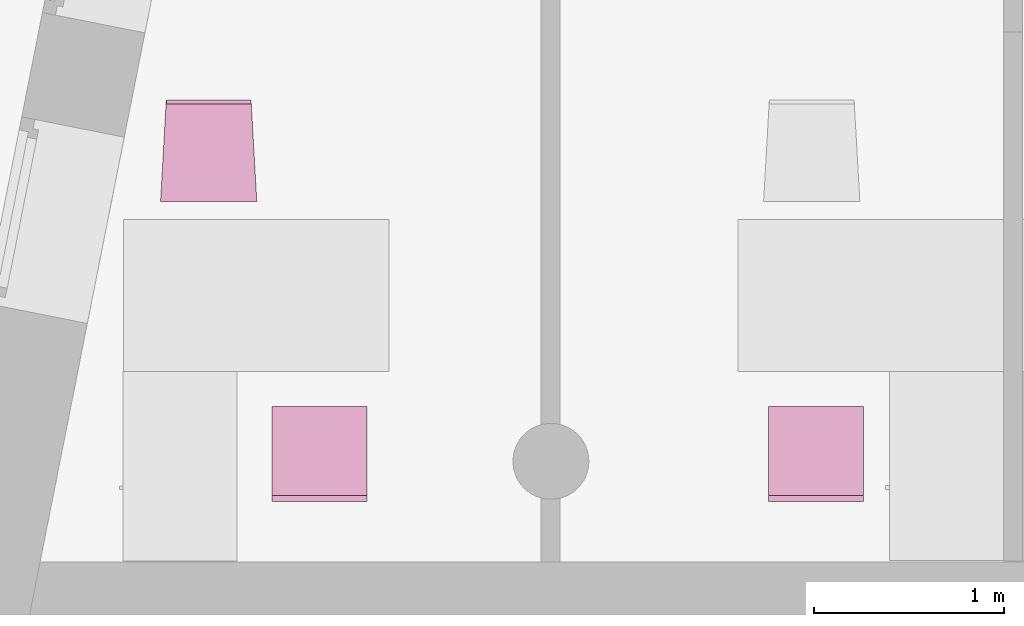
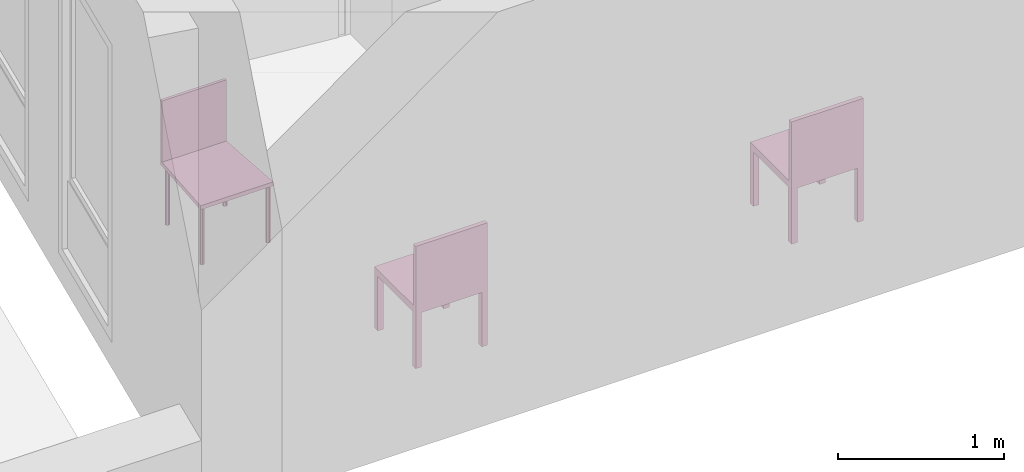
"""IFC4 building model written with IfcOpenShell, lengths in metres."""

from ifc_helpers import new_model, entity, si_unit, converted_unit, derived_unit, frame, origin, place, context, subcontext, project, spatial, faceted_brep, element, save


model = new_model("IFC4")

# Units and contexts
model_context = context("Model", 3, precision=1e-05, world=origin())
body_context = subcontext(model_context, "Body", "Model", "MODEL_VIEW")
ifc_project = project(units=[si_unit("LENGTHUNIT", "METRE"), si_unit("AREAUNIT", "SQUARE_METRE"), si_unit("VOLUMEUNIT", "CUBIC_METRE"), si_unit("MASSUNIT", "GRAM", prefix="KILO"), converted_unit("PLANEANGLEUNIT", "DEGREE", entity("IfcPlaneAngleMeasure", 0.0174532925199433), si_unit("PLANEANGLEUNIT", "RADIAN"), dimensions=[0, 0, 0, 0, 0, 0, 0]), derived_unit("THERMALTRANSMITTANCEUNIT", [(si_unit("POWERUNIT", "WATT"), 1), (si_unit("THERMODYNAMICTEMPERATUREUNIT", "KELVIN"), -1), (si_unit("LENGTHUNIT", "METRE"), -2)]), derived_unit("VOLUMETRICFLOWRATEUNIT", [(si_unit("LENGTHUNIT", "METRE"), 3), (converted_unit("TIMEUNIT", "hour", entity("IfcTimeMeasure", 3600.0), si_unit("TIMEUNIT", "SECOND"), dimensions=[0, 0, 1, 0, 0, 0, 0]), -1), (si_unit("LENGTHUNIT", "METRE"), -1)])], contexts=[model_context])

# Building, storeys
building_placement = place(None, origin())
building = spatial("IfcBuilding", under=ifc_project, at=building_placement, Name="HABITATGE PLURIFAMILIAR", CompositionType="ELEMENT")
storey_1_placement = place(building_placement, frame((0.0, 0.0, 6.25)))
storey_1 = spatial("IfcBuildingStorey", under=building, at=storey_1_placement, Name="PLANTA PRIMERA", CompositionType="ELEMENT", Elevation=6.25)
storey_2_placement = place(storey_1_placement, frame((0.0, 0.0, 3.35)))
storey_2 = spatial("IfcBuildingStorey", under=storey_1, at=storey_2_placement, Name="NOU", CompositionType="PARTIAL")

# Furniture
furniture_1_placement = place(storey_2_placement, frame((399.51810235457, 13.4392327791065, -3.34942958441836)))
element("IfcFurniture", 1, at=furniture_1_placement, inside=storey_2, Name="Cadira d'Oficina_P1", context=body_context, shape_type="Brep", body=[
    faceted_brep([(0.0, 0.5, 0.4), (0.0, 0.0, 0.4), (0.5, 0.0, 0.4), (0.5, 0.5, 0.4), (0.0, 0.0, 0.45), (0.0, 0.5, 0.45), (0.5, 0.5, 0.45), (0.5, 0.0, 0.45)], [[[0, 1, 2, 3]], [[4, 5, 6, 7]], [[1, 0, 5, 4]], [[2, 1, 4, 7]], [[3, 2, 7, 6]], [[0, 3, 6, 5]]], orient=[[False], [False], [False], [False], [False], [False]]),
    faceted_brep([(0.5, 0.04, 0.0), (0.46, 0.04, 0.0), (0.46, 0.0, 0.0), (0.5, 0.0, 0.0), (0.46, 0.04, 0.4), (0.5, 0.04, 0.4), (0.5, 0.0, 0.4), (0.46, 0.0, 0.4)], [[[0, 1, 2, 3]], [[4, 5, 6, 7]], [[1, 0, 5, 4]], [[2, 1, 4, 7]], [[3, 2, 7, 6]], [[0, 3, 6, 5]]], orient=[[False], [False], [False], [False], [False], [False]]),
    faceted_brep([(0.5, 0.5, 0.0), (0.46, 0.5, 0.0), (0.46, 0.46, 0.0), (0.5, 0.46, 0.0), (0.46, 0.5, 0.4), (0.5, 0.5, 0.4), (0.5, 0.46, 0.4), (0.46, 0.46, 0.4)], [[[0, 1, 2, 3]], [[4, 5, 6, 7]], [[1, 0, 5, 4]], [[2, 1, 4, 7]], [[3, 2, 7, 6]], [[0, 3, 6, 5]]], orient=[[False], [False], [False], [False], [False], [False]]),
    faceted_brep([(0.04, 0.04, 0.0), (0.0, 0.04, 0.0), (0.0, 0.0, 0.0), (0.04, 0.0, 0.0), (0.0, 0.04, 0.4), (0.04, 0.04, 0.4), (0.04, 0.0, 0.4), (0.0, 0.0, 0.4)], [[[0, 1, 2, 3]], [[4, 5, 6, 7]], [[1, 0, 5, 4]], [[2, 1, 4, 7]], [[3, 2, 7, 6]], [[0, 3, 6, 5]]], orient=[[False], [False], [False], [False], [False], [False]]),
    faceted_brep([(0.04, 0.5, 0.0), (0.0, 0.5, 0.0), (0.0, 0.46, 0.0), (0.04, 0.46, 0.0), (0.0, 0.5, 0.4), (0.04, 0.5, 0.4), (0.04, 0.46, 0.4), (0.0, 0.46, 0.4)], [[[0, 1, 2, 3]], [[4, 5, 6, 7]], [[1, 0, 5, 4]], [[2, 1, 4, 7]], [[3, 2, 7, 6]], [[0, 3, 6, 5]]], orient=[[False], [False], [False], [False], [False], [False]]),
    faceted_brep([(0.5, 0.03, 0.45), (0.0, 0.03, 0.45), (0.0, 0.0, 0.45), (0.5, 0.0, 0.45), (0.0, 0.03, 0.9), (0.5, 0.03, 0.9), (0.5, 0.0, 0.9), (0.0, 0.0, 0.9)], [[[0, 1, 2, 3]], [[4, 5, 6, 7]], [[1, 0, 5, 4]], [[2, 1, 4, 7]], [[3, 2, 7, 6]], [[0, 3, 6, 5]]], orient=[[False], [False], [False], [False], [False], [False]]),
])
furniture_2_placement = place(storey_2_placement, frame((402.132605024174, 13.4392327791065, -3.34942958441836)))
element("IfcFurniture", 2, at=furniture_2_placement, inside=storey_2, Name="Cadira d'Oficina_P1", context=body_context, shape_type="Brep", body=[
    faceted_brep([(0.0, 0.5, 0.4), (0.0, 0.0, 0.4), (0.5, 0.0, 0.4), (0.5, 0.5, 0.4), (0.0, 0.0, 0.45), (0.0, 0.5, 0.45), (0.5, 0.5, 0.45), (0.5, 0.0, 0.45)], [[[0, 1, 2, 3]], [[4, 5, 6, 7]], [[1, 0, 5, 4]], [[2, 1, 4, 7]], [[3, 2, 7, 6]], [[0, 3, 6, 5]]], orient=[[False], [False], [False], [False], [False], [False]]),
    faceted_brep([(0.5, 0.04, 0.0), (0.46, 0.04, 0.0), (0.46, 0.0, 0.0), (0.5, 0.0, 0.0), (0.46, 0.04, 0.4), (0.5, 0.04, 0.4), (0.5, 0.0, 0.4), (0.46, 0.0, 0.4)], [[[0, 1, 2, 3]], [[4, 5, 6, 7]], [[1, 0, 5, 4]], [[2, 1, 4, 7]], [[3, 2, 7, 6]], [[0, 3, 6, 5]]], orient=[[False], [False], [False], [False], [False], [False]]),
    faceted_brep([(0.5, 0.5, 0.0), (0.46, 0.5, 0.0), (0.46, 0.46, 0.0), (0.5, 0.46, 0.0), (0.46, 0.5, 0.4), (0.5, 0.5, 0.4), (0.5, 0.46, 0.4), (0.46, 0.46, 0.4)], [[[0, 1, 2, 3]], [[4, 5, 6, 7]], [[1, 0, 5, 4]], [[2, 1, 4, 7]], [[3, 2, 7, 6]], [[0, 3, 6, 5]]], orient=[[False], [False], [False], [False], [False], [False]]),
    faceted_brep([(0.04, 0.04, 0.0), (0.0, 0.04, 0.0), (0.0, 0.0, 0.0), (0.04, 0.0, 0.0), (0.0, 0.04, 0.4), (0.04, 0.04, 0.4), (0.04, 0.0, 0.4), (0.0, 0.0, 0.4)], [[[0, 1, 2, 3]], [[4, 5, 6, 7]], [[1, 0, 5, 4]], [[2, 1, 4, 7]], [[3, 2, 7, 6]], [[0, 3, 6, 5]]], orient=[[False], [False], [False], [False], [False], [False]]),
    faceted_brep([(0.04, 0.5, 0.0), (0.0, 0.5, 0.0), (0.0, 0.46, 0.0), (0.04, 0.46, 0.0), (0.0, 0.5, 0.4), (0.04, 0.5, 0.4), (0.04, 0.46, 0.4), (0.0, 0.46, 0.4)], [[[0, 1, 2, 3]], [[4, 5, 6, 7]], [[1, 0, 5, 4]], [[2, 1, 4, 7]], [[3, 2, 7, 6]], [[0, 3, 6, 5]]], orient=[[False], [False], [False], [False], [False], [False]]),
    faceted_brep([(0.5, 0.03, 0.45), (0.0, 0.03, 0.45), (0.0, 0.0, 0.45), (0.5, 0.0, 0.45), (0.0, 0.03, 0.9), (0.5, 0.03, 0.9), (0.5, 0.0, 0.9), (0.0, 0.0, 0.9)], [[[0, 1, 2, 3]], [[4, 5, 6, 7]], [[1, 0, 5, 4]], [[2, 1, 4, 7]], [[3, 2, 7, 6]], [[0, 3, 6, 5]]], orient=[[False], [False], [False], [False], [False], [False]]),
])
furniture_3_placement = place(storey_2_placement, frame((398.931582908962, 15.0183853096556, -3.35114412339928)))
element("IfcFurniture", 3, at=furniture_3_placement, inside=storey_2, Name="Cadira confient_P1", context=body_context, shape_type="Brep", body=[
    faceted_brep([(0.00928777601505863, 0.0250324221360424, 0.0), (0.0095259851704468, 0.0224394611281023, 0.0), (0.0102108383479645, 0.0199272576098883, 0.0), (0.011321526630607, 0.0175721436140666, 0.0), (0.0128243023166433, 0.0154456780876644, 0.0), (0.0146735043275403, 0.0136124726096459, 0.0), (0.016812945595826, 0.0121282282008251, 0.0), (0.0191776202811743, 0.0110380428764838, 0.0), (0.0216956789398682, 0.0103750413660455, 0.0), (0.0242906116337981, 0.0101593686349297, 0.0), (0.0268835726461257, 0.0103975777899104, 0.0), (0.0293957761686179, 0.0110824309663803, 0.0), (0.0317508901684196, 0.012193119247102, 0.0), (0.0338773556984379, 0.0136958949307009, 0.0), (0.035710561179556, 0.0155450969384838, 0.0), (0.0371948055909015, 0.0176845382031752, 0.0), (0.0382849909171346, 0.0200492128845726, 0.0), (0.0389479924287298, 0.0225672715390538, 0.0), (0.0391636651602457, 0.0251622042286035, 0.0), (0.0389254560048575, 0.0277551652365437, 0.0), (0.0382406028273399, 0.0302673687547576, 0.0), (0.0371299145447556, 0.0326224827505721, 0.0), (0.0356271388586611, 0.0347489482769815, 0.0), (0.0337779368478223, 0.0365821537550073, 0.0), (0.0316384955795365, 0.0380663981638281, 0.0), (0.02927382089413, 0.0391565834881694, 0.0), (0.0267557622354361, 0.0398195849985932, 0.0), (0.0241608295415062, 0.0400352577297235, 0.0), (0.0215678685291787, 0.0397970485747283, 0.0), (0.0190556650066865, 0.0391121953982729, 0.0), (0.016700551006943, 0.0380015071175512, 0.0), (0.0145740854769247, 0.0364987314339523, 0.0), (0.0127408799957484, 0.0346495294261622, 0.0), (0.011256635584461, 0.0325100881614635, 0.0), (0.0101664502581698, 0.0301454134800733, 0.0), (0.00950344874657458, 0.0276273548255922, 0.0), (0.00928777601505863, 0.0250324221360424, 0.448281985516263), (0.00950344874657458, 0.0276273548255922, 0.448281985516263), (0.0101664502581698, 0.0301454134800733, 0.448281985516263), (0.011256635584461, 0.0325100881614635, 0.448281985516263), (0.0127408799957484, 0.0346495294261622, 0.448281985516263), (0.0145740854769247, 0.0364987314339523, 0.448281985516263), (0.016700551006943, 0.0380015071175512, 0.448281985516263), (0.0190556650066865, 0.0391121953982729, 0.448281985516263), (0.0215678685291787, 0.0397970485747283, 0.448281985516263), (0.0241608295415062, 0.0400352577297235, 0.448281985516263), (0.0267557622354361, 0.0398195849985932, 0.448281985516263), (0.02927382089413, 0.0391565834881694, 0.448281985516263), (0.0316384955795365, 0.0380663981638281, 0.448281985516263), (0.0337779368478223, 0.0365821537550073, 0.448281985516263), (0.0356271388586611, 0.0347489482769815, 0.448281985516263), (0.0371299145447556, 0.0326224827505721, 0.448281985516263), (0.0382406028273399, 0.0302673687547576, 0.448281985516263), (0.0389254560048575, 0.0277551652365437, 0.448281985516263), (0.0391636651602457, 0.0251622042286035, 0.448281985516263), (0.0389479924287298, 0.0225672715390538, 0.448281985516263), (0.0382849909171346, 0.0200492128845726, 0.448281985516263), (0.0371948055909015, 0.0176845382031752, 0.448281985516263), (0.035710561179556, 0.0155450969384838, 0.448281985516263), (0.0338773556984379, 0.0136958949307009, 0.448281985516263), (0.0317508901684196, 0.012193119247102, 0.448281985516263), (0.0293957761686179, 0.0110824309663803, 0.448281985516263), (0.0268835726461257, 0.0103975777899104, 0.448281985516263), (0.0242906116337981, 0.0101593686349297, 0.448281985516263), (0.0216956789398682, 0.0103750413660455, 0.448281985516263), (0.0191776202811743, 0.0110380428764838, 0.448281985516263), (0.016812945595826, 0.0121282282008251, 0.448281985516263), (0.0146735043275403, 0.0136124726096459, 0.448281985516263), (0.0128243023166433, 0.0154456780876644, 0.448281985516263), (0.011321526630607, 0.0175721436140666, 0.448281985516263), (0.0102108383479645, 0.0199272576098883, 0.448281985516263), (0.0095259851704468, 0.0224394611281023, 0.448281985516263)], [[[0, 1, 2, 3, 4, 5, 6, 7, 8, 9, 10, 11, 12, 13, 14, 15, 16, 17, 18, 19, 20, 21, 22, 23, 24, 25, 26, 27, 28, 29, 30, 31, 32, 33, 34, 35]], [[36, 37, 38, 39, 40, 41, 42, 43, 44, 45, 46, 47, 48, 49, 50, 51, 52, 53, 54, 55, 56, 57, 58, 59, 60, 61, 62, 63, 64, 65, 66, 67, 68, 69, 70, 71]], [[35, 37, 36, 0]], [[34, 38, 37, 35]], [[33, 39, 38, 34]], [[32, 40, 39, 33]], [[31, 41, 40, 32]], [[30, 42, 41, 31]], [[29, 43, 42, 30]], [[28, 44, 43, 29]], [[27, 45, 44, 28]], [[26, 46, 45, 27]], [[25, 47, 46, 26]], [[24, 48, 47, 25]], [[23, 49, 48, 24]], [[22, 50, 49, 23]], [[21, 51, 50, 22]], [[20, 52, 51, 21]], [[19, 53, 52, 20]], [[18, 54, 53, 19]], [[17, 55, 54, 18]], [[16, 56, 55, 17]], [[15, 57, 56, 16]], [[14, 58, 57, 15]], [[13, 59, 58, 14]], [[12, 60, 59, 13]], [[11, 61, 60, 12]], [[10, 62, 61, 11]], [[9, 63, 62, 10]], [[8, 64, 63, 9]], [[7, 65, 64, 8]], [[6, 66, 65, 7]], [[5, 67, 66, 6]], [[4, 68, 67, 5]], [[3, 69, 68, 4]], [[2, 70, 69, 3]], [[1, 71, 70, 2]], [[0, 36, 71, 1]]], orient=[[False], [False], [False], [False], [False], [False], [False], [False], [False], [False], [False], [False], [False], [False], [False], [False], [False], [False], [False], [False], [False], [False], [False], [False], [False], [False], [False], [False], [False], [False], [False], [False], [False], [False], [False], [False], [False], [False]]),
    faceted_brep([(0.0369257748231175, 0.487439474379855, 0.0), (0.0371639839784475, 0.484846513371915, 0.0), (0.0378488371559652, 0.482334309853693, 0.0), (0.0389595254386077, 0.479979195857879, 0.0), (0.040462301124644, 0.477852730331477, 0.0), (0.042311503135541, 0.476019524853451, 0.0), (0.0444509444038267, 0.47453528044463, 0.0), (0.046815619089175, 0.473445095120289, 0.0), (0.0493336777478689, 0.472782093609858, 0.0), (0.0519286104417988, 0.472566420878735, 0.0), (0.0545215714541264, 0.47280463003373, 0.0), (0.0570337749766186, 0.473489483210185, 0.0), (0.0593888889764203, 0.474600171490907, 0.0), (0.0615153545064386, 0.476102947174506, 0.0), (0.0633485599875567, 0.477952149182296, 0.0), (0.0648328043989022, 0.480091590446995, 0.0), (0.0659229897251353, 0.482456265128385, 0.0), (0.0665859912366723, 0.484974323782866, 0.0), (0.0668016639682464, 0.487569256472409, 0.0), (0.0665634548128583, 0.490162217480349, 0.0), (0.0658786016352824, 0.49267442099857, 0.0), (0.0647679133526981, 0.495029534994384, 0.0), (0.0632651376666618, 0.497156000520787, 0.0), (0.0614159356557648, 0.498989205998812, 0.0), (0.059276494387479, 0.500473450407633, 0.0), (0.0569118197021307, 0.501563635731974, 0.0), (0.0543937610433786, 0.502226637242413, 0.0), (0.0517988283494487, 0.502442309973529, 0.0), (0.0492058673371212, 0.502204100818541, 0.0), (0.0466936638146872, 0.501519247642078, 0.0), (0.0443385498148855, 0.500408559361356, 0.0), (0.0422120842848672, 0.498905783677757, 0.0), (0.0403788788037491, 0.497056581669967, 0.0), (0.0388946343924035, 0.494917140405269, 0.0), (0.0378044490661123, 0.492552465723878, 0.0), (0.0371414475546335, 0.490034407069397, 0.0), (0.0369257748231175, 0.487439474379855, 0.448281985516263), (0.0371414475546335, 0.490034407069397, 0.448281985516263), (0.0378044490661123, 0.492552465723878, 0.448281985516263), (0.0388946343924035, 0.494917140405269, 0.448281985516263), (0.0403788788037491, 0.497056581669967, 0.448281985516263), (0.0422120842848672, 0.498905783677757, 0.448281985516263), (0.0443385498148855, 0.500408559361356, 0.448281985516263), (0.0466936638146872, 0.501519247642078, 0.448281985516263), (0.0492058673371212, 0.502204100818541, 0.448281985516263), (0.0517988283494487, 0.502442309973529, 0.448281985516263), (0.0543937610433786, 0.502226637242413, 0.448281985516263), (0.0569118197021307, 0.501563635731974, 0.448281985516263), (0.059276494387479, 0.500473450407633, 0.448281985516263), (0.0614159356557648, 0.498989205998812, 0.448281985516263), (0.0632651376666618, 0.497156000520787, 0.448281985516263), (0.0647679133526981, 0.495029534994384, 0.448281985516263), (0.0658786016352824, 0.49267442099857, 0.448281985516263), (0.0665634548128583, 0.490162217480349, 0.448281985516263), (0.0668016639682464, 0.487569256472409, 0.448281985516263), (0.0665859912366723, 0.484974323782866, 0.448281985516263), (0.0659229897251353, 0.482456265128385, 0.448281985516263), (0.0648328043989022, 0.480091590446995, 0.448281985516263), (0.0633485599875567, 0.477952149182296, 0.448281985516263), (0.0615153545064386, 0.476102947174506, 0.448281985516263), (0.0593888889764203, 0.474600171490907, 0.448281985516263), (0.0570337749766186, 0.473489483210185, 0.448281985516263), (0.0545215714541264, 0.47280463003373, 0.448281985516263), (0.0519286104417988, 0.472566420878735, 0.448281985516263), (0.0493336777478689, 0.472782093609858, 0.448281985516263), (0.046815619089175, 0.473445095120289, 0.448281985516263), (0.0444509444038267, 0.47453528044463, 0.448281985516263), (0.042311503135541, 0.476019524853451, 0.448281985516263), (0.040462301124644, 0.477852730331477, 0.448281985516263), (0.0389595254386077, 0.479979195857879, 0.448281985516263), (0.0378488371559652, 0.482334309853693, 0.448281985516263), (0.0371639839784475, 0.484846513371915, 0.448281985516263)], [[[0, 1, 2, 3, 4, 5, 6, 7, 8, 9, 10, 11, 12, 13, 14, 15, 16, 17, 18, 19, 20, 21, 22, 23, 24, 25, 26, 27, 28, 29, 30, 31, 32, 33, 34, 35]], [[36, 37, 38, 39, 40, 41, 42, 43, 44, 45, 46, 47, 48, 49, 50, 51, 52, 53, 54, 55, 56, 57, 58, 59, 60, 61, 62, 63, 64, 65, 66, 67, 68, 69, 70, 71]], [[35, 37, 36, 0]], [[34, 38, 37, 35]], [[33, 39, 38, 34]], [[32, 40, 39, 33]], [[31, 41, 40, 32]], [[30, 42, 41, 31]], [[29, 43, 42, 30]], [[28, 44, 43, 29]], [[27, 45, 44, 28]], [[26, 46, 45, 27]], [[25, 47, 46, 26]], [[24, 48, 47, 25]], [[23, 49, 48, 24]], [[22, 50, 49, 23]], [[21, 51, 50, 22]], [[20, 52, 51, 21]], [[19, 53, 52, 20]], [[18, 54, 53, 19]], [[17, 55, 54, 18]], [[16, 56, 55, 17]], [[15, 57, 56, 16]], [[14, 58, 57, 15]], [[13, 59, 58, 14]], [[12, 60, 59, 13]], [[11, 61, 60, 12]], [[10, 62, 61, 11]], [[9, 63, 62, 10]], [[8, 64, 63, 9]], [[7, 65, 64, 8]], [[6, 66, 65, 7]], [[5, 67, 66, 6]], [[4, 68, 67, 5]], [[3, 69, 68, 4]], [[2, 70, 69, 3]], [[1, 71, 70, 2]], [[0, 36, 71, 1]]], orient=[[False], [False], [False], [False], [False], [False], [False], [False], [False], [False], [False], [False], [False], [False], [False], [False], [False], [False], [False], [False], [False], [False], [False], [False], [False], [False], [False], [False], [False], [False], [False], [False], [False], [False], [False], [False], [False], [False]]),
    faceted_brep([(0.469287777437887, 0.0250324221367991, 0.0), (0.469525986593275, 0.022439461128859, 0.0), (0.470210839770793, 0.0199272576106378, 0.0), (0.471321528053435, 0.0175721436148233, 0.0), (0.472824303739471, 0.0154456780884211, 0.0), (0.474673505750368, 0.0136124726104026, 0.0), (0.476812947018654, 0.0121282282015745, 0.0), (0.479177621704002, 0.0110380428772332, 0.0), (0.481695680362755, 0.0103750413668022, 0.0), (0.484290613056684, 0.0101593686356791, 0.0), (0.486883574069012, 0.0103975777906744, 0.0), (0.489395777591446, 0.0110824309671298, 0.0), (0.491750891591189, 0.0121931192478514, 0.0), (0.493877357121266, 0.0136958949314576, 0.0), (0.495710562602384, 0.0155450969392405, 0.0), (0.49719480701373, 0.0176845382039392, 0.0), (0.498284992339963, 0.0200492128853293, 0.0), (0.498947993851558, 0.0225672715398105, 0.0), (0.499163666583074, 0.0251622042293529, 0.0), (0.498925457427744, 0.0277551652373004, 0.0), (0.498240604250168, 0.0302673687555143, 0.0), (0.497129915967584, 0.0326224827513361, 0.0), (0.495627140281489, 0.0347489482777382, 0.0), (0.49377793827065, 0.0365821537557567, 0.0), (0.491638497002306, 0.0380663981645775, 0.0), (0.489273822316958, 0.0391565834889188, 0.0), (0.486755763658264, 0.0398195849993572, 0.0), (0.484160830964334, 0.040035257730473, 0.0), (0.481567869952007, 0.039797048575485, 0.0), (0.479055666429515, 0.0391121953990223, 0.0), (0.476700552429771, 0.0380015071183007, 0.0), (0.474574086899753, 0.0364987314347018, 0.0), (0.472740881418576, 0.0346495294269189, 0.0), (0.471256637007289, 0.0325100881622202, 0.0), (0.470166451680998, 0.0301454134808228, 0.0), (0.469503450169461, 0.0276273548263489, 0.0), (0.469287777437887, 0.0250324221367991, 0.448281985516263), (0.469503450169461, 0.0276273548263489, 0.448281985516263), (0.470166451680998, 0.0301454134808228, 0.448281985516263), (0.471256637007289, 0.0325100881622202, 0.448281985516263), (0.472740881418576, 0.0346495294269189, 0.448281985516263), (0.474574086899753, 0.0364987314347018, 0.448281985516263), (0.476700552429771, 0.0380015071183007, 0.448281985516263), (0.479055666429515, 0.0391121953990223, 0.448281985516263), (0.481567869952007, 0.039797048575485, 0.448281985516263), (0.484160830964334, 0.040035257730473, 0.448281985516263), (0.486755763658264, 0.0398195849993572, 0.448281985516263), (0.489273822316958, 0.0391565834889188, 0.448281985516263), (0.491638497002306, 0.0380663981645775, 0.448281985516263), (0.49377793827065, 0.0365821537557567, 0.448281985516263), (0.495627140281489, 0.0347489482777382, 0.448281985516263), (0.497129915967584, 0.0326224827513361, 0.448281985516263), (0.498240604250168, 0.0302673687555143, 0.448281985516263), (0.498925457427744, 0.0277551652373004, 0.448281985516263), (0.499163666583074, 0.0251622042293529, 0.448281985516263), (0.498947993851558, 0.0225672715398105, 0.448281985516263), (0.498284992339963, 0.0200492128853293, 0.448281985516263), (0.49719480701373, 0.0176845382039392, 0.448281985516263), (0.495710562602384, 0.0155450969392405, 0.448281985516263), (0.493877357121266, 0.0136958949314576, 0.448281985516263), (0.491750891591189, 0.0121931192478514, 0.448281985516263), (0.489395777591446, 0.0110824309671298, 0.448281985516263), (0.486883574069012, 0.0103975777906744, 0.448281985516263), (0.484290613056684, 0.0101593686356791, 0.448281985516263), (0.481695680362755, 0.0103750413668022, 0.448281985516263), (0.479177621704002, 0.0110380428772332, 0.448281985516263), (0.476812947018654, 0.0121282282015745, 0.448281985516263), (0.474673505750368, 0.0136124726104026, 0.448281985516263), (0.472824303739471, 0.0154456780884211, 0.448281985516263), (0.471321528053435, 0.0175721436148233, 0.448281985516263), (0.470210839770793, 0.0199272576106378, 0.448281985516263), (0.469525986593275, 0.022439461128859, 0.448281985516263)], [[[0, 1, 2, 3, 4, 5, 6, 7, 8, 9, 10, 11, 12, 13, 14, 15, 16, 17, 18, 19, 20, 21, 22, 23, 24, 25, 26, 27, 28, 29, 30, 31, 32, 33, 34, 35]], [[36, 37, 38, 39, 40, 41, 42, 43, 44, 45, 46, 47, 48, 49, 50, 51, 52, 53, 54, 55, 56, 57, 58, 59, 60, 61, 62, 63, 64, 65, 66, 67, 68, 69, 70, 71]], [[35, 37, 36, 0]], [[34, 38, 37, 35]], [[33, 39, 38, 34]], [[32, 40, 39, 33]], [[31, 41, 40, 32]], [[30, 42, 41, 31]], [[29, 43, 42, 30]], [[28, 44, 43, 29]], [[27, 45, 44, 28]], [[26, 46, 45, 27]], [[25, 47, 46, 26]], [[24, 48, 47, 25]], [[23, 49, 48, 24]], [[22, 50, 49, 23]], [[21, 51, 50, 22]], [[20, 52, 51, 21]], [[19, 53, 52, 20]], [[18, 54, 53, 19]], [[17, 55, 54, 18]], [[16, 56, 55, 17]], [[15, 57, 56, 16]], [[14, 58, 57, 15]], [[13, 59, 58, 14]], [[12, 60, 59, 13]], [[11, 61, 60, 12]], [[10, 62, 61, 11]], [[9, 63, 62, 10]], [[8, 64, 63, 9]], [[7, 65, 64, 8]], [[6, 66, 65, 7]], [[5, 67, 66, 6]], [[4, 68, 67, 5]], [[3, 69, 68, 4]], [[2, 70, 69, 3]], [[1, 71, 70, 2]], [[0, 36, 71, 1]]], orient=[[False], [False], [False], [False], [False], [False], [False], [False], [False], [False], [False], [False], [False], [False], [False], [False], [False], [False], [False], [False], [False], [False], [False], [False], [False], [False], [False], [False], [False], [False], [False], [False], [False], [False], [False], [False], [False], [False]]),
    faceted_brep([(0.436925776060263, 0.487439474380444, 0.0), (0.437163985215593, 0.484846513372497, 0.0), (0.437848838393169, 0.48233430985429, 0.0), (0.438959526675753, 0.479979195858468, 0.0), (0.440462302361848, 0.477852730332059, 0.0), (0.442311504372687, 0.47601952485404, 0.0), (0.444450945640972, 0.474535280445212, 0.0), (0.446815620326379, 0.473445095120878, 0.0), (0.449333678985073, 0.472782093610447, 0.0), (0.451928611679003, 0.472566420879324, 0.0), (0.454521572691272, 0.472804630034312, 0.0), (0.457033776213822, 0.473489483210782, 0.0), (0.459388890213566, 0.474600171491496, 0.0), (0.461515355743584, 0.476102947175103, 0.0), (0.46334856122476, 0.477952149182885, 0.0), (0.464832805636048, 0.480091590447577, 0.0), (0.465922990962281, 0.482456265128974, 0.0), (0.466585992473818, 0.484974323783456, 0.0), (0.466801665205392, 0.487569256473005, 0.0), (0.466563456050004, 0.490162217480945, 0.0), (0.465878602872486, 0.492674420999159, 0.0), (0.464767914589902, 0.495029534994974, 0.0), (0.463265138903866, 0.497156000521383, 0.0), (0.46141593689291, 0.498989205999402, 0.0), (0.459276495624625, 0.50047345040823, 0.0), (0.456911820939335, 0.501563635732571, 0.0), (0.454393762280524, 0.502226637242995, 0.0), (0.451798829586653, 0.502442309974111, 0.0), (0.449205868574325, 0.50220410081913, 0.0), (0.446693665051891, 0.501519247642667, 0.0), (0.444338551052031, 0.500408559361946, 0.0), (0.442212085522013, 0.498905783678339, 0.0), (0.440378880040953, 0.497056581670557, 0.0), (0.438894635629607, 0.494917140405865, 0.0), (0.437804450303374, 0.492552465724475, 0.0), (0.437141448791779, 0.490034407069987, 0.0), (0.436925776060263, 0.487439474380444, 0.448281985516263), (0.437141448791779, 0.490034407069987, 0.448281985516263), (0.437804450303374, 0.492552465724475, 0.448281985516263), (0.438894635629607, 0.494917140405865, 0.448281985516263), (0.440378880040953, 0.497056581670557, 0.448281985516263), (0.442212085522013, 0.498905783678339, 0.448281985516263), (0.444338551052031, 0.500408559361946, 0.448281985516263), (0.446693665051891, 0.501519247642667, 0.448281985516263), (0.449205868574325, 0.50220410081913, 0.448281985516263), (0.451798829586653, 0.502442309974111, 0.448281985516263), (0.454393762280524, 0.502226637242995, 0.448281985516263), (0.456911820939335, 0.501563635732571, 0.448281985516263), (0.459276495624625, 0.50047345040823, 0.448281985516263), (0.46141593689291, 0.498989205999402, 0.448281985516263), (0.463265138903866, 0.497156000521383, 0.448281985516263), (0.464767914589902, 0.495029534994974, 0.448281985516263), (0.465878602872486, 0.492674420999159, 0.448281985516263), (0.466563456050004, 0.490162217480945, 0.448281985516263), (0.466801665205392, 0.487569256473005, 0.448281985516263), (0.466585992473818, 0.484974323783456, 0.448281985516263), (0.465922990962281, 0.482456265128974, 0.448281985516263), (0.464832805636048, 0.480091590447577, 0.448281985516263), (0.46334856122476, 0.477952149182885, 0.448281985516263), (0.461515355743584, 0.476102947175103, 0.448281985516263), (0.459388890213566, 0.474600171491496, 0.448281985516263), (0.457033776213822, 0.473489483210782, 0.448281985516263), (0.454521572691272, 0.472804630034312, 0.448281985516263), (0.451928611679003, 0.472566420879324, 0.448281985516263), (0.449333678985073, 0.472782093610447, 0.448281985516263), (0.446815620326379, 0.473445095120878, 0.448281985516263), (0.444450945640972, 0.474535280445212, 0.448281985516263), (0.442311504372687, 0.47601952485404, 0.448281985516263), (0.440462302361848, 0.477852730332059, 0.448281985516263), (0.438959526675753, 0.479979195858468, 0.448281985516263), (0.437848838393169, 0.48233430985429, 0.448281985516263), (0.437163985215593, 0.484846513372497, 0.448281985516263)], [[[0, 1, 2, 3, 4, 5, 6, 7, 8, 9, 10, 11, 12, 13, 14, 15, 16, 17, 18, 19, 20, 21, 22, 23, 24, 25, 26, 27, 28, 29, 30, 31, 32, 33, 34, 35]], [[36, 37, 38, 39, 40, 41, 42, 43, 44, 45, 46, 47, 48, 49, 50, 51, 52, 53, 54, 55, 56, 57, 58, 59, 60, 61, 62, 63, 64, 65, 66, 67, 68, 69, 70, 71]], [[35, 37, 36, 0]], [[34, 38, 37, 35]], [[33, 39, 38, 34]], [[32, 40, 39, 33]], [[31, 41, 40, 32]], [[30, 42, 41, 31]], [[29, 43, 42, 30]], [[28, 44, 43, 29]], [[27, 45, 44, 28]], [[26, 46, 45, 27]], [[25, 47, 46, 26]], [[24, 48, 47, 25]], [[23, 49, 48, 24]], [[22, 50, 49, 23]], [[21, 51, 50, 22]], [[20, 52, 51, 21]], [[19, 53, 52, 20]], [[18, 54, 53, 19]], [[17, 55, 54, 18]], [[16, 56, 55, 17]], [[15, 57, 56, 16]], [[14, 58, 57, 15]], [[13, 59, 58, 14]], [[12, 60, 59, 13]], [[11, 61, 60, 12]], [[10, 62, 61, 11]], [[9, 63, 62, 10]], [[8, 64, 63, 9]], [[7, 65, 64, 8]], [[6, 66, 65, 7]], [[5, 67, 66, 6]], [[4, 68, 67, 5]], [[3, 69, 68, 4]], [[2, 70, 69, 3]], [[1, 71, 70, 2]], [[0, 36, 71, 1]]], orient=[[False], [False], [False], [False], [False], [False], [False], [False], [False], [False], [False], [False], [False], [False], [False], [False], [False], [False], [False], [False], [False], [False], [False], [False], [False], [False], [False], [False], [False], [False], [False], [False], [False], [False], [False], [False], [False], [False]]),
    faceted_brep([(0.476514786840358, 0.532607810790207, 0.418281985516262), (0.0300000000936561, 0.532607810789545, 0.418281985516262), (0.0, 0.0, 0.418281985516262), (0.506514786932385, 0.0, 0.418281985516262), (0.506514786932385, 0.0, 0.448281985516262), (0.0, 0.0, 0.448281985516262), (0.0300000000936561, 0.532607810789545, 0.448281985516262), (0.476514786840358, 0.532607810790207, 0.448281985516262)], [[[0, 1, 2, 3]], [[4, 5, 6, 7]], [[3, 4, 7, 0]], [[2, 5, 4, 3]], [[1, 6, 5, 2]], [[0, 7, 6, 1]]], orient=[[False], [False], [False], [False], [False], [False]]),
    faceted_brep([(0.476514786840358, 0.512607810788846, 0.448281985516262), (0.476514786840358, 0.532607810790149, 0.448281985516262), (0.0300000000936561, 0.532607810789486, 0.448281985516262), (0.0300000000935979, 0.512607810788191, 0.448281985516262), (0.0300000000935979, 0.512607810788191, 0.898281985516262), (0.0300000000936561, 0.532607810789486, 0.898281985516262), (0.476514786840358, 0.532607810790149, 0.898281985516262), (0.476514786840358, 0.512607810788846, 0.898281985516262)], [[[0, 1, 2, 3]], [[4, 5, 6, 7]], [[3, 4, 7, 0]], [[2, 5, 4, 3]], [[1, 6, 5, 2]], [[0, 7, 6, 1]]], orient=[[False], [False], [False], [False], [False], [False]]),
])

save(model, "model.ifc")
